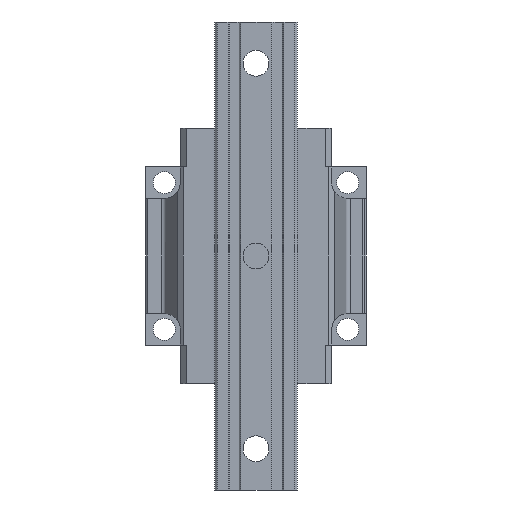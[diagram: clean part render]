
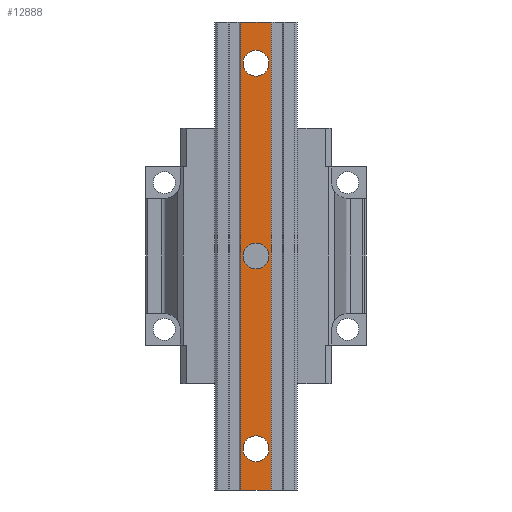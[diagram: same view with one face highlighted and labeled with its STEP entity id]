
A CAD part, front view. The second image highlights one B-rep face of the part: STEP entity #12888.
In plain terms, the highlighted planar face has unit normal (0, -1, 0).
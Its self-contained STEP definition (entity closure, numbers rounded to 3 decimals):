
#41 = DIRECTION ( 'NONE',  ( 0., 0., 1. ) ) ;
#310 = DIRECTION ( 'NONE',  ( 0., 1., 0. ) ) ;
#448 = EDGE_LOOP ( 'NONE', ( #16777, #9903 ) ) ;
#493 = DIRECTION ( 'NONE',  ( 0., 0., 1. ) ) ;
#942 = CARTESIAN_POINT ( 'NONE',  ( 0., -38., -98. ) ) ;
#2954 = LINE ( 'NONE', #22578, #35307 ) ;
#3733 = CIRCLE ( 'NONE', #35045, 7. ) ;
#4125 = CIRCLE ( 'NONE', #20663, 7. ) ;
#4199 = VERTEX_POINT ( 'NONE', #20171 ) ;
#4480 = VECTOR ( 'NONE', #41, 1000. ) ;
#4720 = DIRECTION ( 'NONE',  ( 0., 0., -1. ) ) ;
#4944 = CARTESIAN_POINT ( 'NONE',  ( 0., -38., 7. ) ) ;
#5115 = AXIS2_PLACEMENT_3D ( 'NONE', #24506, #10629, #4720 ) ;
#5832 = CARTESIAN_POINT ( 'NONE',  ( 0., -38., 127.5 ) ) ;
#6011 = CIRCLE ( 'NONE', #26677, 7. ) ;
#6597 = DIRECTION ( 'NONE',  ( 0., 1., 0. ) ) ;
#7292 = EDGE_CURVE ( 'NONE', #9652, #11996, #15622, .T. ) ;
#7667 = PLANE ( 'NONE',  #5115 ) ;
#7860 = LINE ( 'NONE', #21539, #33062 ) ;
#9652 = VERTEX_POINT ( 'NONE', #28346 ) ;
#9720 = DIRECTION ( 'NONE',  ( 0., 0., 1. ) ) ;
#9903 = ORIENTED_EDGE ( 'NONE', *, *, #16033, .T. ) ;
#10160 = VERTEX_POINT ( 'NONE', #22163 ) ;
#10607 = CIRCLE ( 'NONE', #12940, 7. ) ;
#10629 = DIRECTION ( 'NONE',  ( 0., -1., 0. ) ) ;
#11026 = VECTOR ( 'NONE', #25796, 1000. ) ;
#11996 = VERTEX_POINT ( 'NONE', #23052 ) ;
#12799 = CARTESIAN_POINT ( 'NONE',  ( 0., -38., 105. ) ) ;
#12888 = ADVANCED_FACE ( 'NONE', ( #27642, #18957, #19328, #16363 ), #7667, .T. ) ;
#12940 = AXIS2_PLACEMENT_3D ( 'NONE', #12799, #24102, #35386 ) ;
#13708 = ORIENTED_EDGE ( 'NONE', *, *, #28525, .T. ) ;
#13828 = AXIS2_PLACEMENT_3D ( 'NONE', #29154, #6597, #9720 ) ;
#15622 = CIRCLE ( 'NONE', #17387, 7. ) ;
#15719 = CARTESIAN_POINT ( 'NONE',  ( 0., -38., -105. ) ) ;
#16033 = EDGE_CURVE ( 'NONE', #22754, #18921, #4125, .T. ) ;
#16363 = FACE_OUTER_BOUND ( 'NONE', #23649, .T. ) ;
#16768 = CARTESIAN_POINT ( 'NONE',  ( -8.25, -38., -127.5 ) ) ;
#16777 = ORIENTED_EDGE ( 'NONE', *, *, #27206, .T. ) ;
#16816 = DIRECTION ( 'NONE',  ( 0., 1., 0. ) ) ;
#17192 = EDGE_LOOP ( 'NONE', ( #33410, #18451 ) ) ;
#17196 = ORIENTED_EDGE ( 'NONE', *, *, #31953, .T. ) ;
#17387 = AXIS2_PLACEMENT_3D ( 'NONE', #31919, #310, #493 ) ;
#18369 = ORIENTED_EDGE ( 'NONE', *, *, #33239, .T. ) ;
#18451 = ORIENTED_EDGE ( 'NONE', *, *, #31313, .T. ) ;
#18640 = EDGE_CURVE ( 'NONE', #10160, #33339, #22865, .T. ) ;
#18921 = VERTEX_POINT ( 'NONE', #942 ) ;
#18957 = FACE_BOUND ( 'NONE', #17192, .T. ) ;
#19328 = FACE_BOUND ( 'NONE', #34236, .T. ) ;
#19786 = CARTESIAN_POINT ( 'NONE',  ( 8.25, -38., 127.5 ) ) ;
#20054 = CARTESIAN_POINT ( 'NONE',  ( 8.25, -38., -127.5 ) ) ;
#20171 = CARTESIAN_POINT ( 'NONE',  ( 8.25, -38., -127.5 ) ) ;
#20562 = DIRECTION ( 'NONE',  ( 0., 0., 1. ) ) ;
#20663 = AXIS2_PLACEMENT_3D ( 'NONE', #15719, #32728, #26975 ) ;
#21539 = CARTESIAN_POINT ( 'NONE',  ( 0., -38., -127.5 ) ) ;
#21914 = ORIENTED_EDGE ( 'NONE', *, *, #18640, .F. ) ;
#22163 = CARTESIAN_POINT ( 'NONE',  ( -8.25, -38., 127.5 ) ) ;
#22394 = DIRECTION ( 'NONE',  ( 0., 0., -1. ) ) ;
#22578 = CARTESIAN_POINT ( 'NONE',  ( -8.25, -38., -127.5 ) ) ;
#22754 = VERTEX_POINT ( 'NONE', #23216 ) ;
#22865 = LINE ( 'NONE', #5832, #11026 ) ;
#23052 = CARTESIAN_POINT ( 'NONE',  ( 0., -38., 98. ) ) ;
#23216 = CARTESIAN_POINT ( 'NONE',  ( 0., -38., -112. ) ) ;
#23649 = EDGE_LOOP ( 'NONE', ( #13708, #21914, #29986, #17196 ) ) ;
#24102 = DIRECTION ( 'NONE',  ( 0., 1., 0. ) ) ;
#24506 = CARTESIAN_POINT ( 'NONE',  ( -8.25, -38., -127.5 ) ) ;
#24877 = DIRECTION ( 'NONE',  ( 1., 0., 0. ) ) ;
#25459 = EDGE_CURVE ( 'NONE', #35768, #26604, #34526, .T. ) ;
#25796 = DIRECTION ( 'NONE',  ( 1., 0., 0. ) ) ;
#26604 = VERTEX_POINT ( 'NONE', #4944 ) ;
#26677 = AXIS2_PLACEMENT_3D ( 'NONE', #32568, #26828, #20562 ) ;
#26828 = DIRECTION ( 'NONE',  ( 0., 1., 0. ) ) ;
#26975 = DIRECTION ( 'NONE',  ( 0., 0., 1. ) ) ;
#27206 = EDGE_CURVE ( 'NONE', #18921, #22754, #3733, .T. ) ;
#27642 = FACE_BOUND ( 'NONE', #448, .T. ) ;
#28346 = CARTESIAN_POINT ( 'NONE',  ( 0., -38., 112. ) ) ;
#28525 = EDGE_CURVE ( 'NONE', #4199, #33339, #36513, .T. ) ;
#29154 = CARTESIAN_POINT ( 'NONE',  ( 0., -38., 0. ) ) ;
#29766 = EDGE_CURVE ( 'NONE', #10160, #32862, #2954, .T. ) ;
#29986 = ORIENTED_EDGE ( 'NONE', *, *, #29766, .T. ) ;
#30890 = CARTESIAN_POINT ( 'NONE',  ( 0., -38., -105. ) ) ;
#31313 = EDGE_CURVE ( 'NONE', #11996, #9652, #10607, .T. ) ;
#31919 = CARTESIAN_POINT ( 'NONE',  ( 0., -38., 105. ) ) ;
#31953 = EDGE_CURVE ( 'NONE', #32862, #4199, #7860, .T. ) ;
#32568 = CARTESIAN_POINT ( 'NONE',  ( 0., -38., 0. ) ) ;
#32728 = DIRECTION ( 'NONE',  ( 0., 1., 0. ) ) ;
#32862 = VERTEX_POINT ( 'NONE', #16768 ) ;
#33062 = VECTOR ( 'NONE', #24877, 1000. ) ;
#33239 = EDGE_CURVE ( 'NONE', #26604, #35768, #6011, .T. ) ;
#33281 = DIRECTION ( 'NONE',  ( 0., 0., 1. ) ) ;
#33339 = VERTEX_POINT ( 'NONE', #19786 ) ;
#33410 = ORIENTED_EDGE ( 'NONE', *, *, #7292, .T. ) ;
#33968 = CARTESIAN_POINT ( 'NONE',  ( 0., -38., -7. ) ) ;
#34236 = EDGE_LOOP ( 'NONE', ( #18369, #34725 ) ) ;
#34526 = CIRCLE ( 'NONE', #13828, 7. ) ;
#34725 = ORIENTED_EDGE ( 'NONE', *, *, #25459, .T. ) ;
#35045 = AXIS2_PLACEMENT_3D ( 'NONE', #30890, #16816, #33281 ) ;
#35307 = VECTOR ( 'NONE', #22394, 1000. ) ;
#35386 = DIRECTION ( 'NONE',  ( 0., 0., 1. ) ) ;
#35768 = VERTEX_POINT ( 'NONE', #33968 ) ;
#36513 = LINE ( 'NONE', #20054, #4480 ) ;
